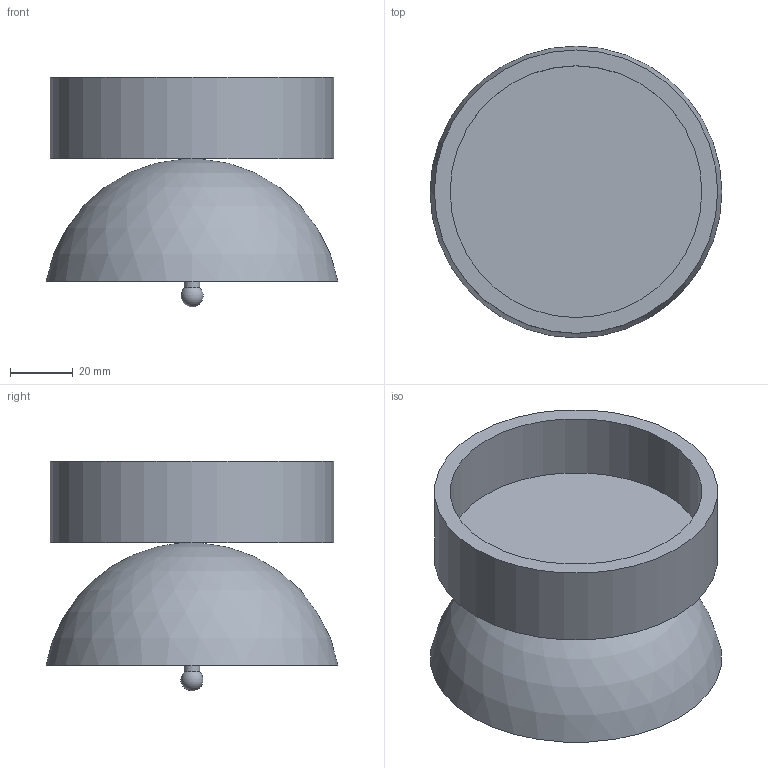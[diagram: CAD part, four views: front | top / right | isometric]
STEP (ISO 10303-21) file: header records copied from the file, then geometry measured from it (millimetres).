
FILE_DESCRIPTION(('STEP AP242'), '1');
FILE_NAME('扻錝魛', '', ('UNSPECIFIED'), ('UNSPECIFIED'), 'C3D Converter', 'C3D Toolkit', '');
FILE_SCHEMA(('AP242_MANAGED_MODEL_BASED_3D_ENGINEERING_MIM_LF { 1 0 10303 442 1 1 4 }'));
Length unit declared in the file: millimetre
Bounding box: 92.7 x 92.7 x 73 mm (x, y, z)
Volume: 92415.6 mm3; surface area: 48334.7 mm2
Topology: 1 solids, 1 shells, 10 faces, 16 edges, 10 vertices
Faces by surface type: plane 4, sphere 3, cylinder 3
Full cylindrical faces by diameter (mm): 5 x1, 80 x1, 90 x1
Entity records: 234 total; most frequent: DIRECTION 40, CARTESIAN_POINT 29, AXIS2_PLACEMENT_3D 20, EDGE_LOOP 18, ORIENTED_EDGE 18, FACE_OUTER_BOUND 11, ADVANCED_FACE 10, EDGE_CURVE 9
